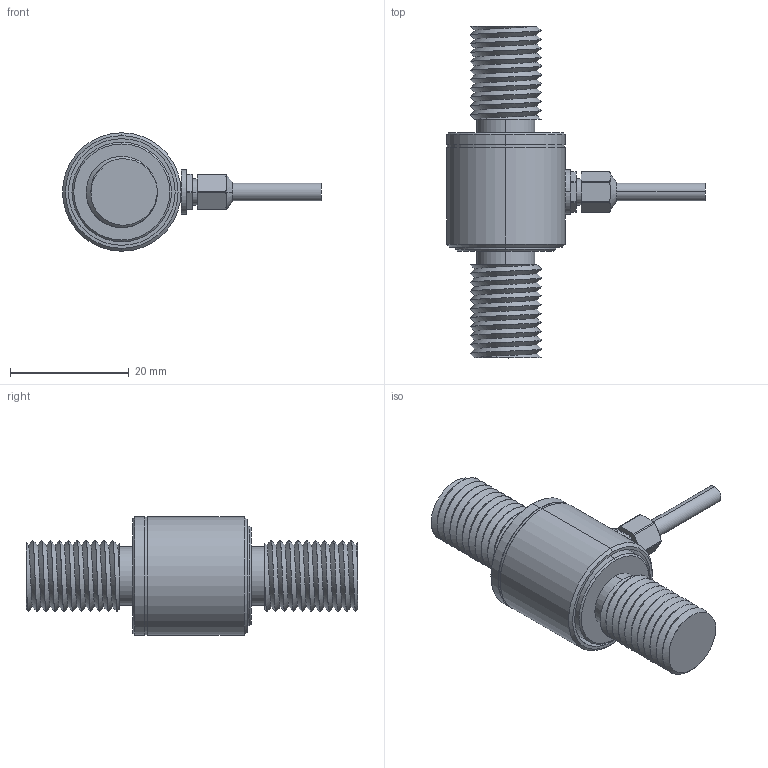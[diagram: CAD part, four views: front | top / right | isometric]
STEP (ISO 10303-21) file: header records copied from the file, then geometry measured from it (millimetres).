
FILE_DESCRIPTION (( 'STEP AP203' ), '1' );
FILE_NAME ('LCR10(10-20kN).STEP', '2024-08-24T07:54:24', ( '' ), ( '' ), 'SwSTEP 2.0', 'SolidWorks 2019', '' );
FILE_SCHEMA (( 'CONFIG_CONTROL_DESIGN' ));
Length unit declared in the file: millimetre
Products named in the file (1): LCR10(10-20kN)
Bounding box: 43.7 x 56 x 20 mm (x, y, z)
Volume: 9486.7 mm3; surface area: 5921.4 mm2
Topology: 2 solids, 2 shells, 120 faces, 303 edges, 199 vertices
Faces by surface type: cylinder 77, plane 29, cone 8, bspline 4, torus 2
Entity records: 6254 total; most frequent: CARTESIAN_POINT 3518, ORIENTED_EDGE 606, DIRECTION 516, EDGE_CURVE 303, AXIS2_PLACEMENT_3D 200, VERTEX_POINT 199, EDGE_LOOP 132, FACE_OUTER_BOUND 120
